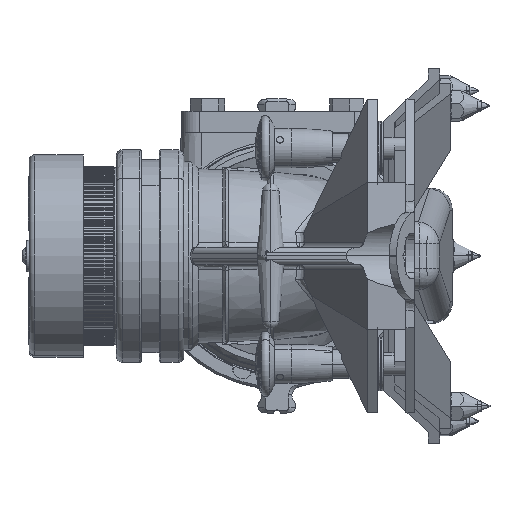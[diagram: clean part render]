
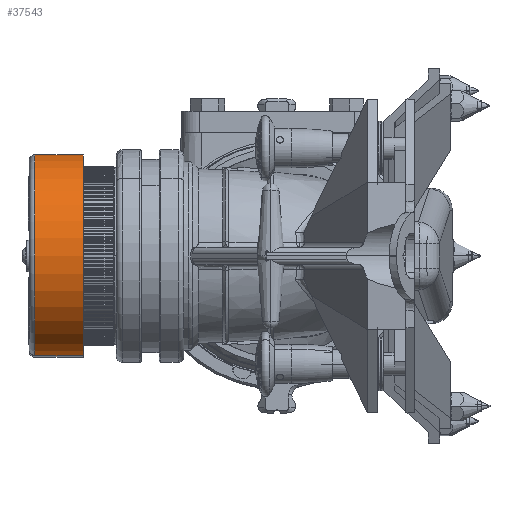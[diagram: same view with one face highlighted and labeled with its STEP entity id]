
A CAD part, left-side view. The second image highlights one B-rep face of the part: STEP entity #37543.
In plain terms, the highlighted cylindrical face has radius 57.15 mm (diameter 114.3 mm), a partial arc.
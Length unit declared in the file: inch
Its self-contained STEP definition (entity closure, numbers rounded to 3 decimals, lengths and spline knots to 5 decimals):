
#6182 = EDGE_LOOP ( 'NONE', ( #25282, #25283, #25284, #25285 ) ) ;
#17054 = EDGE_CURVE ( 'NONE', #64241, #64243, #54859, .T. ) ;
#17056 = EDGE_CURVE ( 'NONE', #64243, #64244, #54863, .T. ) ;
#17057 = EDGE_CURVE ( 'NONE', #64245, #64244, #54867, .T. ) ;
#17058 = EDGE_CURVE ( 'NONE', #64241, #64245, #54865, .T. ) ;
#25282 = ORIENTED_EDGE ( 'NONE', *, *, #17054, .T. ) ;
#25283 = ORIENTED_EDGE ( 'NONE', *, *, #17056, .T. ) ;
#25284 = ORIENTED_EDGE ( 'NONE', *, *, #17057, .F. ) ;
#25285 = ORIENTED_EDGE ( 'NONE', *, *, #17058, .F. ) ;
#28151 = CARTESIAN_POINT ( 'NONE',  ( -8.93549, 5.385, 2.21603 ) ) ;
#28152 = CARTESIAN_POINT ( 'NONE',  ( -9.71451, 5.385, -2.21603 ) ) ;
#28154 = CARTESIAN_POINT ( 'NONE',  ( -9.71451, 4.31, -2.21603 ) ) ;
#28156 = CARTESIAN_POINT ( 'NONE',  ( -8.93549, 4.31, 2.21603 ) ) ;
#37543 = ADVANCED_FACE ( 'NONE', ( #45582 ), #45584, .T. ) ;
#45582 = FACE_OUTER_BOUND ( 'NONE', #6182, .T. ) ;
#45584 = CYLINDRICAL_SURFACE ( 'NONE', #110913, 2.25 ) ;
#54859 = CIRCLE ( 'NONE', #100220, 2.25 ) ;
#54863 = LINE ( 'NONE', #89099, #54870 ) ;
#54865 = LINE ( 'NONE', #89109, #54876 ) ;
#54867 = CIRCLE ( 'NONE', #100225, 2.25 ) ;
#54870 = VECTOR ( 'NONE', #89074, 39.37008 ) ;
#54876 = VECTOR ( 'NONE', #89072, 39.37008 ) ;
#64241 = VERTEX_POINT ( 'NONE', #28151 ) ;
#64243 = VERTEX_POINT ( 'NONE', #28152 ) ;
#64244 = VERTEX_POINT ( 'NONE', #28154 ) ;
#64245 = VERTEX_POINT ( 'NONE', #28156 ) ;
#89072 = DIRECTION ( 'NONE',  ( 0., -1., 0. ) ) ;
#89074 = DIRECTION ( 'NONE',  ( 0., -1., 0. ) ) ;
#89092 = CARTESIAN_POINT ( 'NONE',  ( -9.325, 5.385, 0. ) ) ;
#89094 = DIRECTION ( 'NONE',  ( 0., -1., 0. ) ) ;
#89096 = DIRECTION ( 'NONE',  ( 0.173, 0., 0.985 ) ) ;
#89099 = CARTESIAN_POINT ( 'NONE',  ( -9.71451, 5.51, -2.21603 ) ) ;
#89109 = CARTESIAN_POINT ( 'NONE',  ( -8.93549, 5.51, 2.21603 ) ) ;
#89110 = CARTESIAN_POINT ( 'NONE',  ( -9.325, 4.31, 0. ) ) ;
#89112 = DIRECTION ( 'NONE',  ( 0., -1., 0. ) ) ;
#89113 = DIRECTION ( 'NONE',  ( 0.173, 0., 0.985 ) ) ;
#100220 = AXIS2_PLACEMENT_3D ( 'NONE', #89092, #89094, #89096 ) ;
#100225 = AXIS2_PLACEMENT_3D ( 'NONE', #89110, #89112, #89113 ) ;
#110913 = AXIS2_PLACEMENT_3D ( 'NONE', #115904, #115893, #115891 ) ;
#115891 = DIRECTION ( 'NONE',  ( 0.173, 0., 0.985 ) ) ;
#115893 = DIRECTION ( 'NONE',  ( 0., -1., 0. ) ) ;
#115904 = CARTESIAN_POINT ( 'NONE',  ( -9.325, 5.51, 0. ) ) ;
